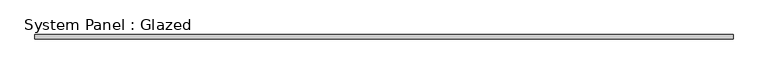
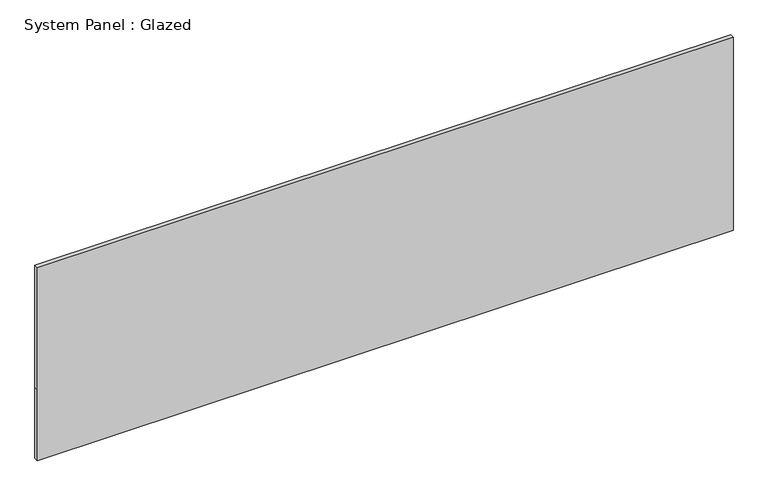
"""IFC4 building model written with IfcOpenShell, lengths in millimetres: plate geometry, System Panel : Glazed."""

from ifc_helpers import new_model, si_unit, frame, origin, place, context, project, spatial, polyline, outline, extrude, source, transform, mapped, element, save


def system_panel_glazed_bdf03046(model_context):
    return source(origin(), model_context, "Body", "SweptSolid", [
        extrude(outline(polyline([(0.0, -1962.5), (0.0, 1962.5), (1150.0, 1962.5), (1150.0, -1962.5), (423.4924443, -1962.5), (0.0, -1962.5)])), frame((0.0, 24.5, 0.0), z_axis=(0.0, 1.0, 0.0), x_axis=(0.0, 0.0, 1.0)), (0.0, 0.0, 1.0), 25.0),
    ])


if __name__ == "__main__":
    model = new_model("IFC4")
    model_context = context("Model", 3, world=origin())
    ifc_project = project(units=[si_unit("LENGTHUNIT", "METRE", prefix="MILLI")], contexts=[model_context])
    site = spatial("IfcSite", under=ifc_project)
    building = spatial("IfcBuilding", under=site)
    placement = place(None, origin())
    system_panel_glazed_shape = system_panel_glazed_bdf03046(model_context)
    element("IfcPlate", 1, ObjectType="System Panel : Glazed", at=placement, inside=building, context=model_context, shape_type="MappedRepresentation", body=[
        mapped(system_panel_glazed_shape, transform((0.0, 0.0, 0.0), x_axis=(1.0, 0.0, 0.0), y_axis=(0.0, 1.0, 0.0), z_axis=(0.0, 0.0, 1.0))),
    ])
    save(model, "model.ifc")
